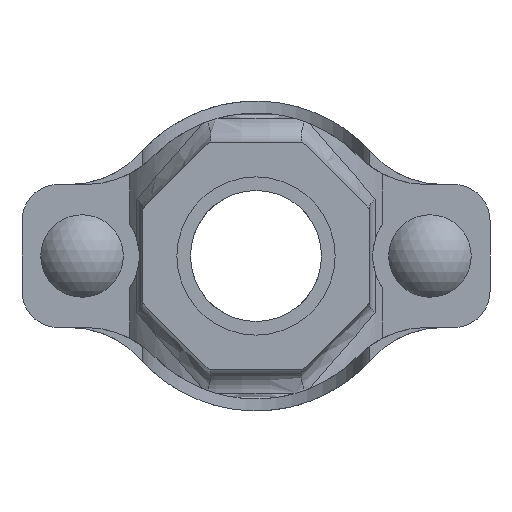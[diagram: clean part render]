
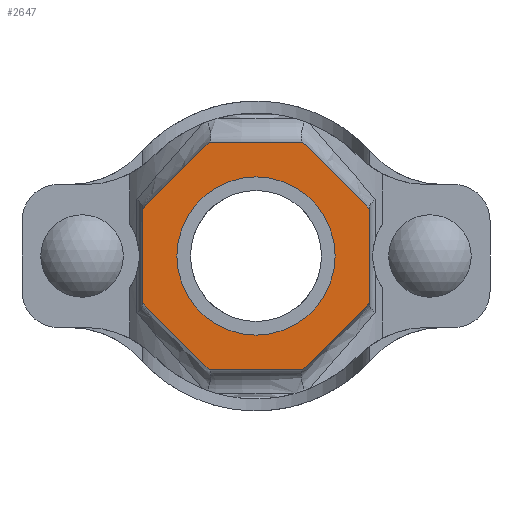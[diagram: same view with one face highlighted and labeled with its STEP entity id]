
A CAD part, front view. The second image highlights one B-rep face of the part: STEP entity #2647.
In plain terms, the highlighted planar face has unit normal (0, -1, 0) as drawn and (0, 1, 0) by its records, which use the part's own axes.
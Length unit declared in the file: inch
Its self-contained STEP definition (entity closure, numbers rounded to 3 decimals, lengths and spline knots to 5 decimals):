
#203=FACE_BOUND('',#484,.T.);
#327=FACE_OUTER_BOUND('',#483,.T.);
#483=EDGE_LOOP('',(#2233,#2234,#2235,#2236,#2237,#2238,#2239,#2240));
#484=EDGE_LOOP('',(#2241));
#624=LINE('',#4959,#812);
#627=LINE('',#4964,#815);
#629=LINE('',#4968,#817);
#631=LINE('',#4972,#819);
#667=LINE('',#5271,#855);
#669=LINE('',#5275,#857);
#671=LINE('',#5279,#859);
#673=LINE('',#5282,#861);
#812=VECTOR('',#3419,0.3937);
#815=VECTOR('',#3424,0.3937);
#817=VECTOR('',#3428,0.3937);
#819=VECTOR('',#3432,0.3937);
#855=VECTOR('',#3562,0.3937);
#857=VECTOR('',#3566,0.3937);
#859=VECTOR('',#3570,0.3937);
#861=VECTOR('',#3574,0.3937);
#952=CIRCLE('',#2921,0.83);
#1151=VERTEX_POINT('',#4956);
#1152=VERTEX_POINT('',#4958);
#1153=VERTEX_POINT('',#4962);
#1154=VERTEX_POINT('',#4966);
#1155=VERTEX_POINT('',#4970);
#1183=VERTEX_POINT('',#5132);
#1205=VERTEX_POINT('',#5270);
#1206=VERTEX_POINT('',#5274);
#1207=VERTEX_POINT('',#5278);
#1479=EDGE_CURVE('',#1152,#1151,#624,.T.);
#1482=EDGE_CURVE('',#1151,#1153,#627,.T.);
#1484=EDGE_CURVE('',#1153,#1154,#629,.T.);
#1486=EDGE_CURVE('',#1154,#1155,#631,.T.);
#1527=EDGE_CURVE('',#1183,#1183,#952,.T.);
#1557=EDGE_CURVE('',#1205,#1152,#667,.T.);
#1559=EDGE_CURVE('',#1206,#1205,#669,.T.);
#1561=EDGE_CURVE('',#1207,#1206,#671,.T.);
#1563=EDGE_CURVE('',#1155,#1207,#673,.T.);
#2233=ORIENTED_EDGE('',*,*,#1563,.T.);
#2234=ORIENTED_EDGE('',*,*,#1561,.T.);
#2235=ORIENTED_EDGE('',*,*,#1559,.T.);
#2236=ORIENTED_EDGE('',*,*,#1557,.T.);
#2237=ORIENTED_EDGE('',*,*,#1479,.T.);
#2238=ORIENTED_EDGE('',*,*,#1482,.T.);
#2239=ORIENTED_EDGE('',*,*,#1484,.T.);
#2240=ORIENTED_EDGE('',*,*,#1486,.T.);
#2241=ORIENTED_EDGE('',*,*,#1527,.T.);
#2378=PLANE('',#2942);
#2647=ADVANCED_FACE('',(#327,#203),#2378,.T.);
#2921=AXIS2_PLACEMENT_3D('',#5133,#3512,#3513);
#2942=AXIS2_PLACEMENT_3D('',#5283,#3575,#3576);
#3419=DIRECTION('',(0.,0.,1.));
#3424=DIRECTION('',(0.707,0.,0.707));
#3428=DIRECTION('',(1.,0.,0.));
#3432=DIRECTION('',(0.707,0.,-0.707));
#3512=DIRECTION('center_axis',(0.,-1.,0.));
#3513=DIRECTION('ref_axis',(-1.,0.,0.));
#3562=DIRECTION('',(-0.707,0.,0.707));
#3566=DIRECTION('',(-1.,0.,0.));
#3570=DIRECTION('',(-0.707,0.,-0.707));
#3574=DIRECTION('',(0.,0.,-1.));
#3575=DIRECTION('center_axis',(0.,1.,0.));
#3576=DIRECTION('ref_axis',(0.,0.,1.));
#4956=CARTESIAN_POINT('',(-1.19,2.75,0.49291));
#4958=CARTESIAN_POINT('',(-1.19,2.75,-0.49291));
#4959=CARTESIAN_POINT('',(-1.19,2.75,0.49291));
#4962=CARTESIAN_POINT('',(-0.49291,2.75,1.19));
#4964=CARTESIAN_POINT('',(-0.49291,2.75,1.19));
#4966=CARTESIAN_POINT('',(0.49291,2.75,1.19));
#4968=CARTESIAN_POINT('',(0.49291,2.75,1.19));
#4970=CARTESIAN_POINT('',(1.19,2.75,0.49291));
#4972=CARTESIAN_POINT('',(1.19,2.75,0.49291));
#5132=CARTESIAN_POINT('',(0.83,2.75,0.));
#5133=CARTESIAN_POINT('Origin',(0.,2.75,0.));
#5270=CARTESIAN_POINT('',(-0.49291,2.75,-1.19));
#5271=CARTESIAN_POINT('',(-1.19,2.75,-0.49291));
#5274=CARTESIAN_POINT('',(0.49291,2.75,-1.19));
#5275=CARTESIAN_POINT('',(-0.49291,2.75,-1.19));
#5278=CARTESIAN_POINT('',(1.19,2.75,-0.49291));
#5279=CARTESIAN_POINT('',(0.49291,2.75,-1.19));
#5282=CARTESIAN_POINT('',(1.19,2.75,-0.49291));
#5283=CARTESIAN_POINT('Origin',(0.,2.75,0.));
